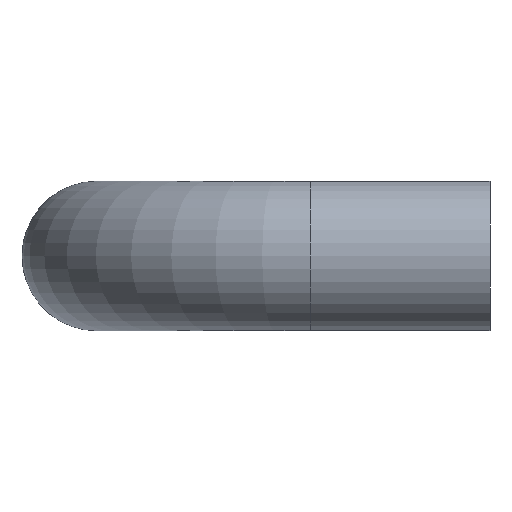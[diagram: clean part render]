
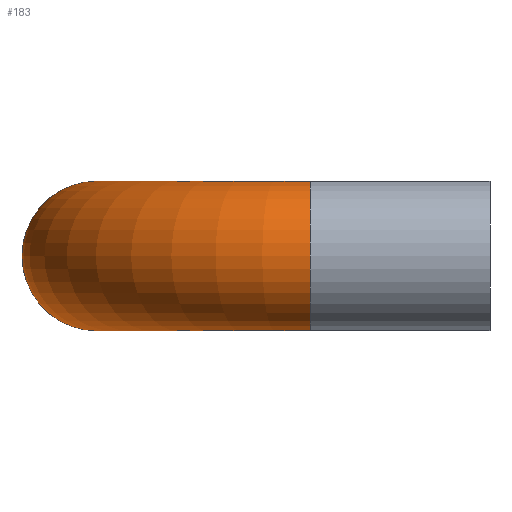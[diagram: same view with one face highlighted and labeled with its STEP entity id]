
A CAD part, left-side view. The second image highlights one B-rep face of the part: STEP entity #183.
In plain terms, the highlighted toroidal (fillet/blend) face has major radius 50 mm and minor radius 17.5 mm.
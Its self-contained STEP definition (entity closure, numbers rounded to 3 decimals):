
#152=CARTESIAN_POINT('',(0.,67.5,0.));
#153=VERTEX_POINT('',#152);
#154=CARTESIAN_POINT('',(0.,50.0,0.0));
#155=DIRECTION('',(-1.0,0.0,0.0));
#156=DIRECTION('',(0.0,-1.0,0.0));
#157=AXIS2_PLACEMENT_3D('',#154,#155,#156);
#158=CIRCLE('',#157,17.5);
#159=EDGE_CURVE('',#153,#153,#158,.T.);
#164=CARTESIAN_POINT('',(0.0,0.0,0.0));
#165=DIRECTION('',(0.0,0.0,-1.0));
#166=DIRECTION('',(-1.0,0.0,0.0));
#167=AXIS2_PLACEMENT_3D('',#164,#165,#166);
#168=TOROIDAL_SURFACE('',#167,50.0,17.5);
#169=ORIENTED_EDGE('',*,*,#159,.T.);
#170=EDGE_LOOP('',(#169));
#171=FACE_OUTER_BOUND('',#170,.T.);
#172=CARTESIAN_POINT('',(-67.5,0.,0.));
#173=VERTEX_POINT('',#172);
#174=CARTESIAN_POINT('',(-50.0,0.0,0.0));
#175=DIRECTION('',(0.0,-1.0,0.0));
#176=DIRECTION('',(1.0,0.0,0.0));
#177=AXIS2_PLACEMENT_3D('',#174,#175,#176);
#178=CIRCLE('',#177,17.5);
#179=EDGE_CURVE('',#173,#173,#178,.T.);
#180=ORIENTED_EDGE('',*,*,#179,.F.);
#181=EDGE_LOOP('',(#180));
#182=FACE_BOUND('',#181,.T.);
#183=ADVANCED_FACE('',(#171,#182),#168,.T.);
